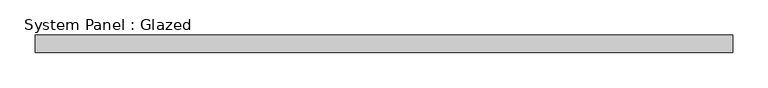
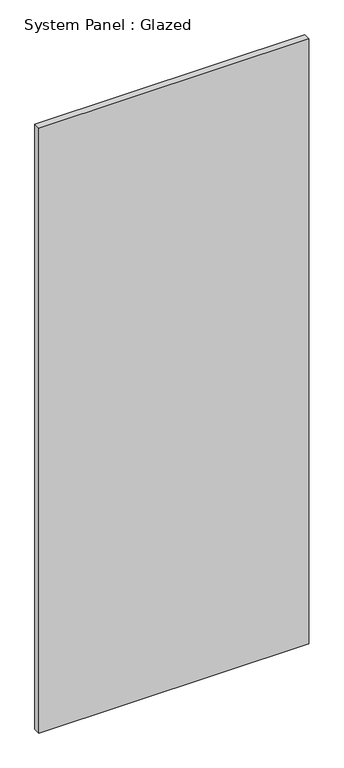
"""IFC4 building model written with IfcOpenShell, lengths in millimetres: plate geometry, System Panel : Glazed."""

from ifc_helpers import new_model, si_unit, origin, origin_with_axes, place, context, project, spatial, polyline, outline, extrude, source, transform, mapped, element, save


def system_panel_glazed_1b308fc3(model_context):
    return source(origin(), model_context, "Body", "SweptSolid", [
        extrude(outline(polyline([(495.9415842, 24.5), (-495.9415842, 24.5), (-495.9415842, 49.5), (495.9415842, 49.5), (495.9415842, 24.5)])), origin_with_axes(), (0.0, 0.0, 1.0), 2350.0),
    ])


if __name__ == "__main__":
    model = new_model("IFC4")
    model_context = context("Model", 3, world=origin())
    ifc_project = project(units=[si_unit("LENGTHUNIT", "METRE", prefix="MILLI")], contexts=[model_context])
    site = spatial("IfcSite", under=ifc_project)
    building = spatial("IfcBuilding", under=site)
    placement = place(None, origin())
    system_panel_glazed_shape = system_panel_glazed_1b308fc3(model_context)
    element("IfcPlate", 1, ObjectType="System Panel : Glazed", at=placement, inside=building, context=model_context, shape_type="MappedRepresentation", body=[
        mapped(system_panel_glazed_shape, transform((0.0, 0.0, 0.0), x_axis=(1.0, 0.0, 0.0), y_axis=(0.0, 1.0, 0.0), z_axis=(0.0, 0.0, 1.0))),
    ])
    save(model, "model.ifc")
